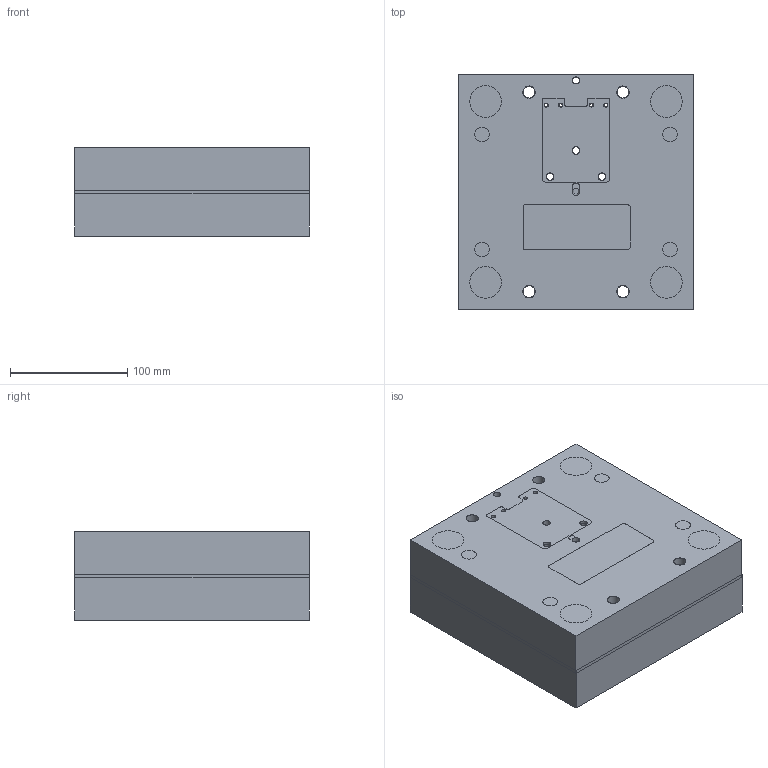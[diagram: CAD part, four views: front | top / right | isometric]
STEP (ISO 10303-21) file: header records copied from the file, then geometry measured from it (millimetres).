
FILE_DESCRIPTION( ( 'Unknown' ), '1' );
FILE_NAME( 'C:/Drawings/CDP/Support Bracket 91 Pitch And Shaft Support/Loose Support and 300 Shaft Support/Tooldrawings/MHDP Outer and Support Plate.stp', 'Unknown', ( 'Unknown' ), ( 'Unknown' ), 'XStep 1.0', 'Unknown', ' ' );
FILE_SCHEMA( ( 'CONFIG_CONTROL_DESIGN' ) );
Length unit declared in the file: millimetre
Products named in the file (3): Assem1; MH Die Plate Outer; Support Plate
Bounding box: 200 x 200 x 75.28 mm (x, y, z)
Surface area: 537049.3 mm2
Topology: 4 solids, 4 shells, 460 faces, 1144 edges, 708 vertices
Faces by surface type: cylinder 184, plane 168, cone 36, torus 36, bspline 16, extrusion 12, sphere 8
Full cylindrical faces by diameter (mm): 3 x8, 3.5 x6, 6 x8, 6.5 x8, 6.647 x4, 8 x4, 10 x12, 10.106 x8, 10.5 x8, 11 x2, 12.5 x8, 20 x2, 27 x8, 30 x2, 32 x8
Entity records: 9116 total; most frequent: CARTESIAN_POINT 3719, DIRECTION 1100, ORIENTED_EDGE 966, EDGE_CURVE 483, AXIS2_PLACEMENT_3D 428, EDGE_LOOP 372, VERTEX_POINT 335, FACE_OUTER_BOUND 278
